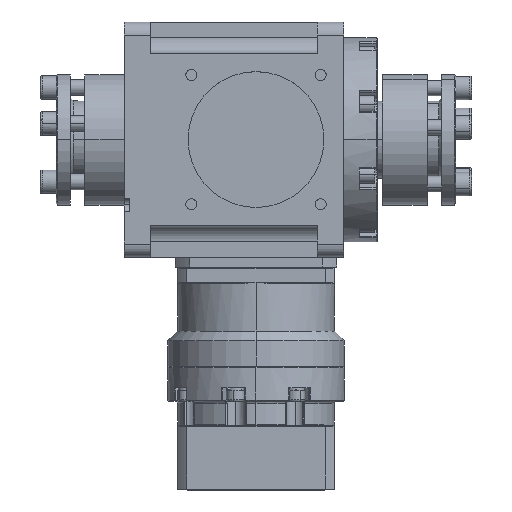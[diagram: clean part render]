
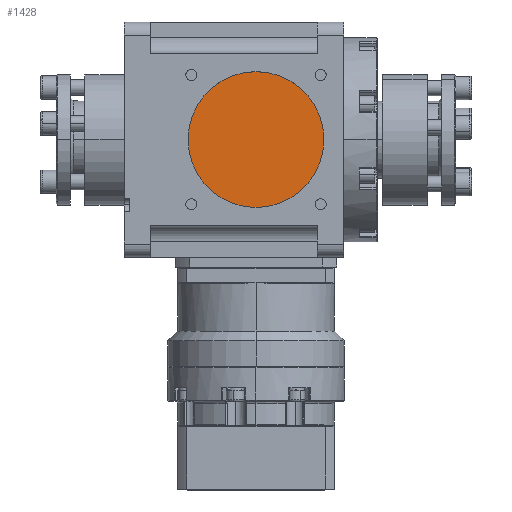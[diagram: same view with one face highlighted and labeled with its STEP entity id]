
A CAD part, top view. The second image highlights one B-rep face of the part: STEP entity #1428.
In plain terms, the highlighted planar face has unit normal (0, 0, 1).
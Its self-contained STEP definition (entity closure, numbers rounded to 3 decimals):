
#687 = PLANE ( 'NONE',  #48060 ) ;
#1428 = ADVANCED_FACE ( 'NONE', ( #7780 ), #687, .T. ) ;
#2204 = EDGE_LOOP ( 'NONE', ( #46665, #46698 ) ) ;
#4478 = DIRECTION ( 'NONE',  ( 0., 0., 1. ) ) ;
#6400 = CARTESIAN_POINT ( 'NONE',  ( 43., 0., 41. ) ) ;
#7318 = DIRECTION ( 'NONE',  ( -1., 0., 0. ) ) ;
#7780 = FACE_OUTER_BOUND ( 'NONE', #2204, .T. ) ;
#11100 = CARTESIAN_POINT ( 'NONE',  ( 17., 0., 41. ) ) ;
#11256 = AXIS2_PLACEMENT_3D ( 'NONE', #11100, #26748, #7318 ) ;
#13442 = DIRECTION ( 'NONE',  ( 0., 0., 1. ) ) ;
#17559 = VERTEX_POINT ( 'NONE', #6400 ) ;
#26748 = DIRECTION ( 'NONE',  ( 0., 0., 1. ) ) ;
#32720 = CARTESIAN_POINT ( 'NONE',  ( -9., 0., 41. ) ) ;
#34186 = AXIS2_PLACEMENT_3D ( 'NONE', #36158, #13442, #40200 ) ;
#36158 = CARTESIAN_POINT ( 'NONE',  ( 17., 0., 41. ) ) ;
#37036 = CIRCLE ( 'NONE', #11256, 26. ) ;
#39788 = CIRCLE ( 'NONE', #34186, 26. ) ;
#40200 = DIRECTION ( 'NONE',  ( -1., 0., 0. ) ) ;
#42864 = DIRECTION ( 'NONE',  ( -1., 0., 0. ) ) ;
#43265 = EDGE_CURVE ( 'NONE', #17559, #45034, #37036, .T. ) ;
#45034 = VERTEX_POINT ( 'NONE', #32720 ) ;
#46431 = EDGE_CURVE ( 'NONE', #45034, #17559, #39788, .T. ) ;
#46655 = CARTESIAN_POINT ( 'NONE',  ( 17., 0., 41. ) ) ;
#46665 = ORIENTED_EDGE ( 'NONE', *, *, #43265, .T. ) ;
#46698 = ORIENTED_EDGE ( 'NONE', *, *, #46431, .T. ) ;
#48060 = AXIS2_PLACEMENT_3D ( 'NONE', #46655, #4478, #42864 ) ;
